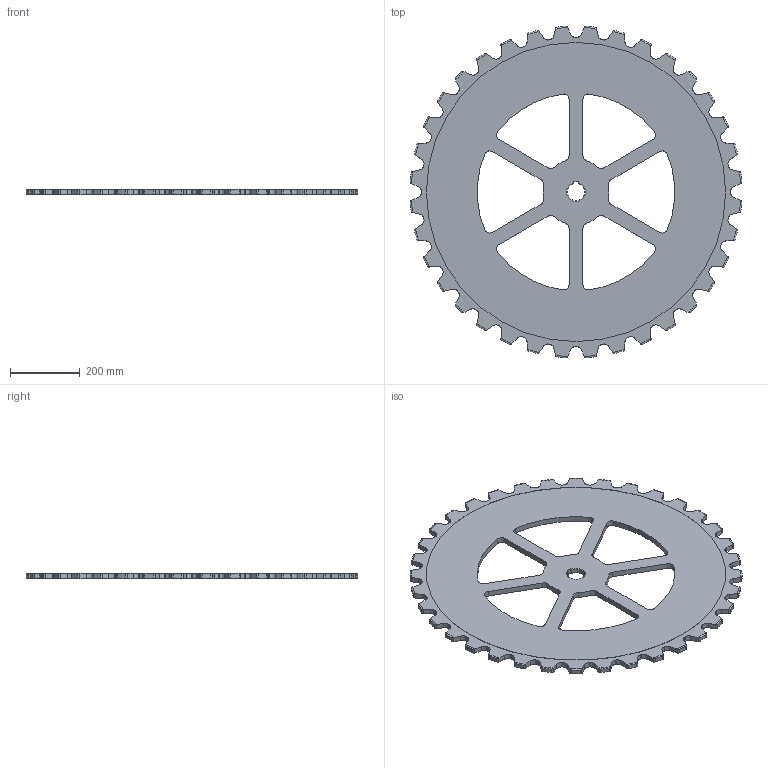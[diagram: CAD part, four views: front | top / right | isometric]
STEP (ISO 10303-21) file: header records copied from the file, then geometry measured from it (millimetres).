
FILE_DESCRIPTION(/* description */ ('Тяговая звёздочка Z=36'),/* implementation_level */ '2;1');
FILE_NAME(/* name */ '',/* time_stamp */ '2026-08-24T16:05:59+03:00',/* author */ ('kiril'),/* organization */ (''),/* preprocessor_version */ 'ST-DEVELOPER v20.1',/* originating_system */ 'Autodesk Inventor 2026',/* authorisation */ '');
FILE_SCHEMA (('AUTOMOTIVE_DESIGN { 1 0 10303 214 3 1 1 }'));
Length unit declared in the file: millimetre
Products named in the file (1): 001-01
Bounding box: 952.61 x 952.61 x 16 mm (x, y, z)
Volume: 7769472.8 mm3; surface area: 1114767.3 mm2
Topology: 1 solids, 1 shells, 420 faces, 1248 edges, 832 vertices
Faces by surface type: cylinder 255, plane 91, cone 74
Full cylindrical faces by diameter (mm): 860 x2
Entity records: 15143 total; most frequent: CARTESIAN_POINT 4093, ORIENTED_EDGE 2496, DIRECTION 2238, EDGE_CURVE 1248, AXIS2_PLACEMENT_3D 861, VERTEX_POINT 832, LINE 516, VECTOR 516
